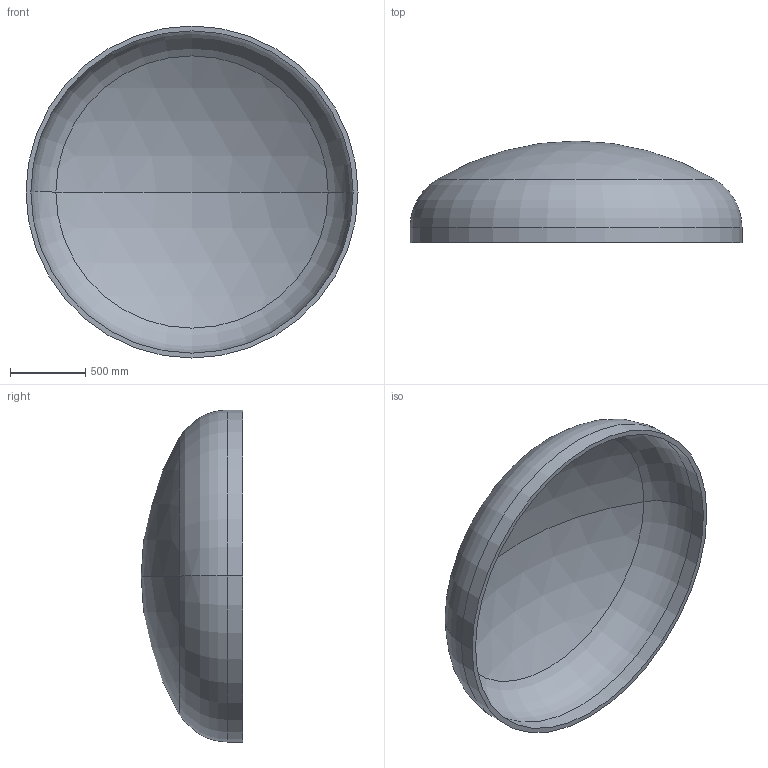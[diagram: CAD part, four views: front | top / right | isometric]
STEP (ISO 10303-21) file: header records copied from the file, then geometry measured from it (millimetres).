
FILE_DESCRIPTION (( 'STEP AP203' ), '1' );
FILE_NAME ('DIN 28013 Korbbogenform_-_Boden DIN 28013 - 2200 x 100 - I - s=32.step', '2016-07-01T14:30:56', ( '' ), ( '' ), 'SwSTEP 2.0', 'SolidWorks 2013', '' );
FILE_SCHEMA (( 'CONFIG_CONTROL_DESIGN' ));
Length unit declared in the file: millimetre
Products named in the file (1): DIN 28013 Korbbogenform_-_Boden DIN 28013 - 2200 x 100 - I - s=32
Bounding box: 2200 x 672.81 x 2200 mm (x, y, z)
Volume: 187177677.2 mm3; surface area: 11918696.6 mm2
Topology: 1 solids, 1 shells, 13 faces, 24 edges, 14 vertices
Faces by surface type: torus 4, cylinder 4, sphere 4, plane 1
Entity records: 407 total; most frequent: DIRECTION 72, CARTESIAN_POINT 52, ORIENTED_EDGE 48, AXIS2_PLACEMENT_3D 34, EDGE_CURVE 24, CIRCLE 20, VERTEX_POINT 14, EDGE_LOOP 14
